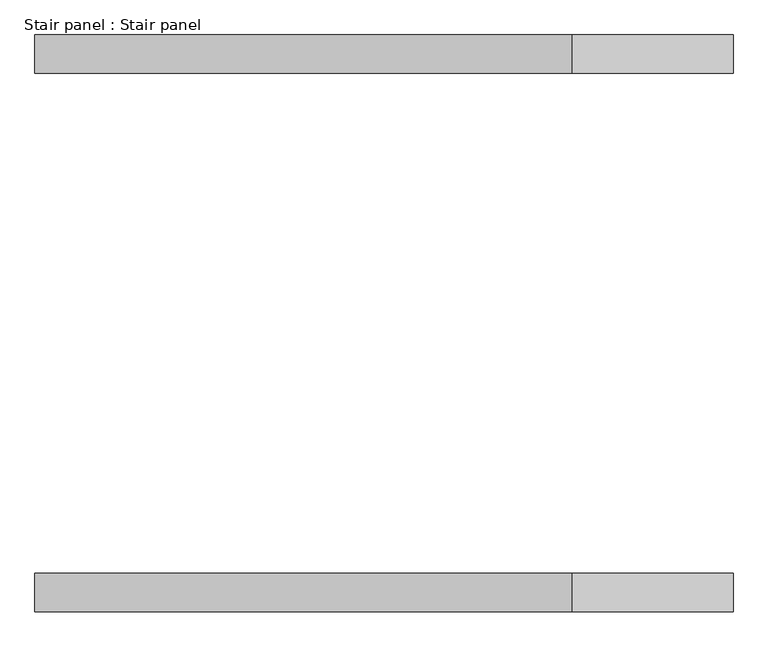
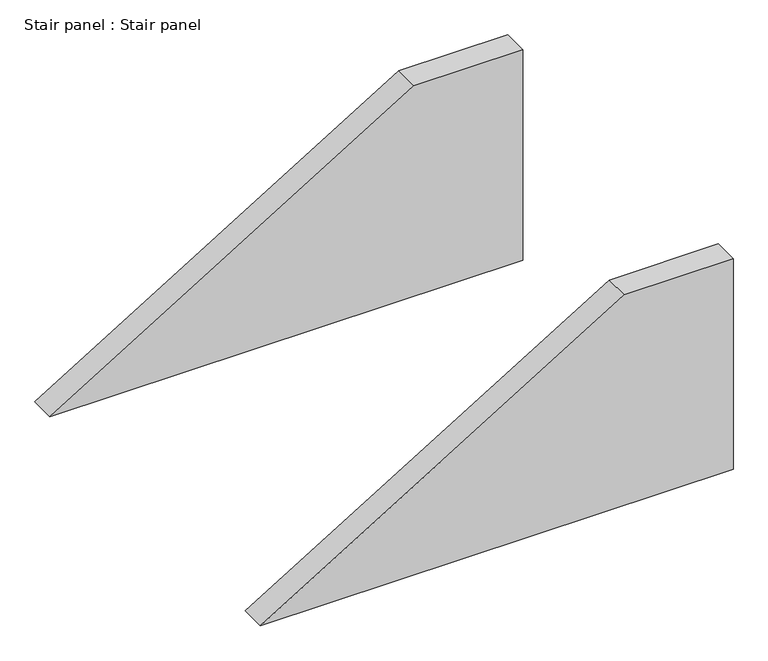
"""IFC4 building model written with IfcOpenShell, lengths in millimetres: proxy geometry, Stair panel : Stair panel."""

import ifcopenshell
import ifcopenshell.guid

model = None  # the IFC model being written
_history = None  # IfcOwnerHistory: only IFC2X3 demands one
_inside = {}  # id of a spatial element -> (the spatial element, [elements in it])
_under = {}  # id of a project, library or spatial element -> (it, [spatial elements below it])
_declared = {}  # id of a project -> (the project, [libraries it declares])
_typed = {}  # id of a type object -> (the type object, [elements of that type])
_made_of = {}  # id of a material, layer set ... -> (it, [elements and type objects made of it])


def new_model(schema):
    """Start an empty IFC model of exactly this schema.

    Asked for "IFC4X3", IfcOpenShell would pick the latest addendum, in which some entities
    have other attributes; the version numbers below select the first issue.
    IFC2X3 requires an IfcOwnerHistory on every rooted entity: one is made here for all.
    """
    global model, _history
    if schema == "IFC4X3":
        model = ifcopenshell.file(schema_version=(4, 3, 0, 0))
    else:
        model = ifcopenshell.file(schema=schema)
    _inside.clear()
    _under.clear()
    _declared.clear()
    _typed.clear()
    _made_of.clear()
    _history = None
    if model.schema == "IFC2X3":
        org = make("IfcOrganization", Name="unknown")
        user = make(
            "IfcPersonAndOrganization",
            ThePerson=make("IfcPerson", FamilyName="unknown"),
            TheOrganization=org,
        )
        app = make(
            "IfcApplication",
            ApplicationDeveloper=org,
            Version="unknown",
            ApplicationFullName="unknown",
            ApplicationIdentifier="unknown",
        )
        _history = make(
            "IfcOwnerHistory",
            OwningUser=user,
            OwningApplication=app,
            ChangeAction="ADDED",
            CreationDate=0,
        )
    return model


def make(cls, **values):
    """One entity of the class cls with the attributes given. An attribute that is None is left unset."""
    return model.create_entity(
        cls, **{name: value for name, value in values.items() if value is not None}
    )


def rooted(cls, **values):
    """An entity with a GlobalId (a new one), such as an element, a storey or a relation."""
    return make(cls, GlobalId=ifcopenshell.guid.new(), OwnerHistory=_history, **values)


def si_unit(unit_type, name, prefix=None):
    """IfcSIUnit, for example si_unit("LENGTHUNIT", "METRE", prefix="MILLI")."""
    return make("IfcSIUnit", UnitType=unit_type, Prefix=prefix, Name=name)


def assignment(units):
    """IfcUnitAssignment: the units of a project."""
    return None if units is None else make("IfcUnitAssignment", Units=units)


def point(xyz):
    """IfcCartesianPoint."""
    return None if xyz is None else make("IfcCartesianPoint", Coordinates=xyz)


def direction(xyz):
    """IfcDirection."""
    return None if xyz is None else make("IfcDirection", DirectionRatios=xyz)


def frame(location, z_axis=None, x_axis=None):
    """IfcAxis2Placement3D, a coordinate frame: its origin and axes. An axis left out is left unset."""
    return make(
        "IfcAxis2Placement3D",
        Location=point(location),
        Axis=direction(z_axis),
        RefDirection=direction(x_axis),
    )


def origin():
    """The frame at (0, 0, 0) with its axes left unset."""
    return frame((0.0, 0.0, 0.0))


def place(relative_to, where):
    """IfcLocalPlacement: puts the frame where relative to a parent placement (None: the world)."""
    return make(
        "IfcLocalPlacement", PlacementRelTo=relative_to, RelativePlacement=where
    )


def context(
    kind, dimensions, precision=None, world=None, true_north=None, identifier=None
):
    """IfcGeometricRepresentationContext, for example the 3D "Model" context."""
    return make(
        "IfcGeometricRepresentationContext",
        ContextIdentifier=identifier,
        ContextType=kind,
        CoordinateSpaceDimension=dimensions,
        Precision=precision,
        WorldCoordinateSystem=world,
        TrueNorth=true_north,
    )


def project(units=None, contexts=None):
    """IfcProject with its units and contexts."""
    return rooted(
        "IfcProject",
        Name="project",
        RepresentationContexts=contexts,
        UnitsInContext=assignment(units),
    )


def spatial(cls, under=None, at=None, **own):
    """A site, building, storey or space (cls), placed at a placement, below another one or the project."""
    s = rooted(cls, ObjectPlacement=at, **own)
    if under is not None:
        _under.setdefault(under.id(), (under, []))[1].append(s)
    return s


def polyline(points):
    """IfcPolyline through the points."""
    return make("IfcPolyline", Points=[point(p) for p in points])


def outline(outer, holes=None, kind="AREA"):
    """IfcArbitraryClosedProfileDef: a profile drawn as a closed curve; with holes, ...WithVoids."""
    if holes is None:
        return make("IfcArbitraryClosedProfileDef", ProfileType=kind, OuterCurve=outer)
    return make(
        "IfcArbitraryProfileDefWithVoids",
        ProfileType=kind,
        OuterCurve=outer,
        InnerCurves=holes,
    )


def extrude(swept, where, along, depth):
    """IfcExtrudedAreaSolid: the profile swept, set in the frame where, extruded along a direction by depth."""
    return make(
        "IfcExtrudedAreaSolid",
        SweptArea=swept,
        Position=where,
        ExtrudedDirection=direction(along),
        Depth=depth,
    )


def shape(context_of_items, identifier, shape_type, items):
    """IfcShapeRepresentation: the items that make up one representation, for example the "Body"."""
    return make(
        "IfcShapeRepresentation",
        ContextOfItems=context_of_items,
        RepresentationIdentifier=identifier,
        RepresentationType=shape_type,
        Items=items,
    )


def source(mapping_origin, context_of_items, identifier, shape_type, items):
    """IfcRepresentationMap: a shape defined once, which mapped items show again and again."""
    return make(
        "IfcRepresentationMap",
        MappingOrigin=mapping_origin,
        MappedRepresentation=shape(context_of_items, identifier, shape_type, items),
    )


def transform(
    local_origin,
    x_axis=None,
    y_axis=None,
    z_axis=None,
    scale=None,
    scale2=None,
    scale3=None,
    uniform=True,
):
    """IfcCartesianTransformationOperator3D, or its non-uniform kind. x_axis, y_axis, z_axis: its Axis1, 2, 3."""
    if uniform:
        return make(
            "IfcCartesianTransformationOperator3D",
            Axis1=direction(x_axis),
            Axis2=direction(y_axis),
            LocalOrigin=point(local_origin),
            Scale=scale,
            Axis3=direction(z_axis),
        )
    return make(
        "IfcCartesianTransformationOperator3DnonUniform",
        Axis1=direction(x_axis),
        Axis2=direction(y_axis),
        LocalOrigin=point(local_origin),
        Scale=scale,
        Axis3=direction(z_axis),
        Scale2=scale2,
        Scale3=scale3,
    )


def mapped(mapping_source, mapping_target):
    """IfcMappedItem: shows the shape of a source again, moved by a transform."""
    return make(
        "IfcMappedItem", MappingSource=mapping_source, MappingTarget=mapping_target
    )


def made_of(thing, what):
    """Note that an element or type object is made of a material, layer set ...; save() writes the relation."""
    if what is not None:
        _made_of.setdefault(what.id(), (what, []))[1].append(thing)
    return thing


def element(
    cls,
    number,
    at=None,
    inside=None,
    cuts=None,
    type_object=None,
    material=None,
    context=None,
    identifier="Body",
    shape_type=None,
    held_by="IfcProductDefinitionShape",
    body=None,
    shapes=None,
    **own,
):
    """One element of the class cls, such as IfcWall. Its Tag is "e" and its number.

    at: its placement. inside: the storey or other place that contains it. cuts: it is an
    opening in that element (IfcRelVoidsElement). A single representation is given by context,
    identifier, shape_type and body (its items); several are given by shapes. held_by: the class
    of the entity that holds the representations. save() writes the other relations.
    """
    e = rooted(cls, Tag="e%d" % number, ObjectPlacement=at, **own)
    if body is not None:
        shapes = [shape(context, identifier, shape_type, body)]
    if shapes is not None:
        e.Representation = make(held_by, Representations=shapes)
    if inside is not None:
        _inside.setdefault(inside.id(), (inside, []))[1].append(e)
    if cuts is not None:
        rooted(
            "IfcRelVoidsElement", RelatingBuildingElement=cuts, RelatedOpeningElement=e
        )
    if type_object is not None:
        _typed.setdefault(type_object.id(), (type_object, []))[1].append(e)
    return made_of(e, material)


def aggregate(whole, parts):
    """IfcRelAggregates: a whole, such as a stair, and the parts it consists of."""
    return rooted("IfcRelAggregates", RelatingObject=whole, RelatedObjects=parts)


def save(model, path):
    """Write the relations noted so far, then the file.

    IfcRelAggregates (storeys below a building ...), IfcRelContainedInSpatialStructure (elements
    in a storey), IfcRelDefinesByType, IfcRelAssociatesMaterial and IfcRelDeclares: one each for
    every whole, place, type object, material and project.
    """
    for whole, parts in _under.values():
        aggregate(whole, parts)
    for where, things in _inside.values():
        rooted(
            "IfcRelContainedInSpatialStructure",
            RelatedElements=things,
            RelatingStructure=where,
        )
    for kind, things in _typed.values():
        rooted("IfcRelDefinesByType", RelatedObjects=things, RelatingType=kind)
    for what, things in _made_of.values():
        rooted("IfcRelAssociatesMaterial", RelatedObjects=things, RelatingMaterial=what)
    for by, libraries in _declared.values():
        rooted("IfcRelDeclares", RelatingContext=by, RelatedDefinitions=libraries)
    model.write(path)


def stair_panel_stair_panel_f019767a(model_context):
    return source(origin(), model_context, "Body", "SweptSolid", [
        extrude(outline(polyline([(-249.7666667, -20743.5993049), (-1117.6, -22163.690214), (-1117.6, -20318.5535292), (-249.7666667, -20318.5535292), (-249.7666667, -20743.5993049)])), frame((0.0, -1808.1314015, 0.0), z_axis=(0.0, 1.0, 0.0), x_axis=(0.0, 0.0, 1.0)), (0.0, 0.0, 1.0), 101.6),
        extrude(outline(polyline([(-249.7666667, -20743.5993049), (-1117.6, -22163.690214), (-1117.6, -20318.5535292), (-249.7666667, -20318.5535292), (-249.7666667, -20743.5993049)])), frame((0.0, -385.7314015, 0.0), z_axis=(0.0, 1.0, 0.0), x_axis=(0.0, 0.0, 1.0)), (0.0, 0.0, 1.0), 101.6),
    ])


if __name__ == "__main__":
    model = new_model("IFC4")
    model_context = context("Model", 3, world=origin())
    ifc_project = project(units=[si_unit("LENGTHUNIT", "METRE", prefix="MILLI")], contexts=[model_context])
    site = spatial("IfcSite", under=ifc_project)
    building = spatial("IfcBuilding", under=site)
    placement = place(None, origin())
    stair_panel_stair_panel_shape = stair_panel_stair_panel_f019767a(model_context)
    element("IfcBuildingElementProxy", 1, Name="Stair panel : Stair panel", ObjectType="Stair panel : Stair panel", at=placement, inside=building, context=model_context, shape_type="MappedRepresentation", body=[
        mapped(stair_panel_stair_panel_shape, transform((0.0, 0.0, 0.0), x_axis=(1.0, 0.0, 0.0), y_axis=(0.0, 1.0, 0.0), z_axis=(0.0, 0.0, 1.0))),
    ])
    save(model, "model.ifc")
